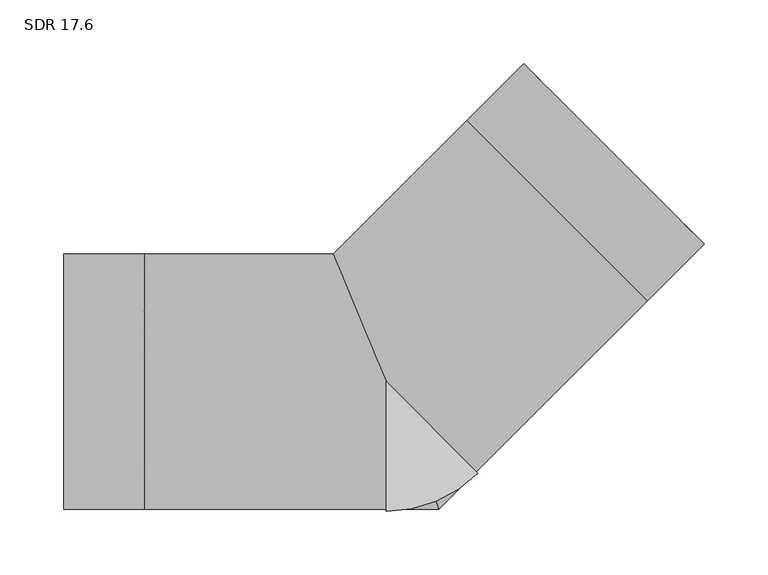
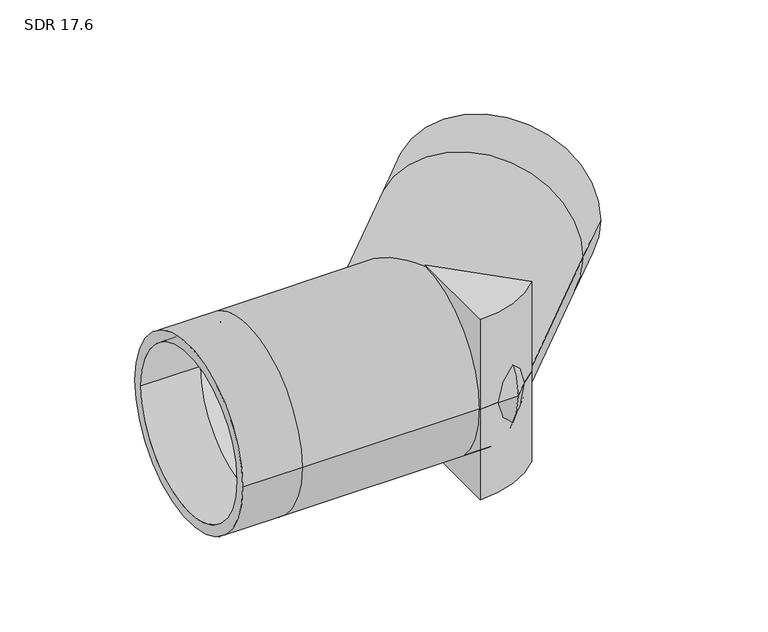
"""IFC4 building model written with IfcOpenShell, lengths in millimetres: pipe fitting geometry, Aquatherm - Elbow Blue BW Segmented : SDR 17.6."""

import ifcopenshell
import ifcopenshell.guid

model = None  # the IFC model being written
_history = None  # IfcOwnerHistory: only IFC2X3 demands one
_inside = {}  # id of a spatial element -> (the spatial element, [elements in it])
_under = {}  # id of a project, library or spatial element -> (it, [spatial elements below it])
_declared = {}  # id of a project -> (the project, [libraries it declares])
_typed = {}  # id of a type object -> (the type object, [elements of that type])
_made_of = {}  # id of a material, layer set ... -> (it, [elements and type objects made of it])


def new_model(schema):
    """Start an empty IFC model of exactly this schema.

    Asked for "IFC4X3", IfcOpenShell would pick the latest addendum, in which some entities
    have other attributes; the version numbers below select the first issue.
    IFC2X3 requires an IfcOwnerHistory on every rooted entity: one is made here for all.
    """
    global model, _history
    if schema == "IFC4X3":
        model = ifcopenshell.file(schema_version=(4, 3, 0, 0))
    else:
        model = ifcopenshell.file(schema=schema)
    _inside.clear()
    _under.clear()
    _declared.clear()
    _typed.clear()
    _made_of.clear()
    _history = None
    if model.schema == "IFC2X3":
        org = make("IfcOrganization", Name="unknown")
        user = make(
            "IfcPersonAndOrganization",
            ThePerson=make("IfcPerson", FamilyName="unknown"),
            TheOrganization=org,
        )
        app = make(
            "IfcApplication",
            ApplicationDeveloper=org,
            Version="unknown",
            ApplicationFullName="unknown",
            ApplicationIdentifier="unknown",
        )
        _history = make(
            "IfcOwnerHistory",
            OwningUser=user,
            OwningApplication=app,
            ChangeAction="ADDED",
            CreationDate=0,
        )
    return model


def make(cls, **values):
    """One entity of the class cls with the attributes given. An attribute that is None is left unset."""
    return model.create_entity(
        cls, **{name: value for name, value in values.items() if value is not None}
    )


def rooted(cls, **values):
    """An entity with a GlobalId (a new one), such as an element, a storey or a relation."""
    return make(cls, GlobalId=ifcopenshell.guid.new(), OwnerHistory=_history, **values)


def si_unit(unit_type, name, prefix=None):
    """IfcSIUnit, for example si_unit("LENGTHUNIT", "METRE", prefix="MILLI")."""
    return make("IfcSIUnit", UnitType=unit_type, Prefix=prefix, Name=name)


def assignment(units):
    """IfcUnitAssignment: the units of a project."""
    return None if units is None else make("IfcUnitAssignment", Units=units)


def point(xyz):
    """IfcCartesianPoint."""
    return None if xyz is None else make("IfcCartesianPoint", Coordinates=xyz)


def direction(xyz):
    """IfcDirection."""
    return None if xyz is None else make("IfcDirection", DirectionRatios=xyz)


def frame(location, z_axis=None, x_axis=None):
    """IfcAxis2Placement3D, a coordinate frame: its origin and axes. An axis left out is left unset."""
    return make(
        "IfcAxis2Placement3D",
        Location=point(location),
        Axis=direction(z_axis),
        RefDirection=direction(x_axis),
    )


def frame_2d(location, x_axis=None):
    """IfcAxis2Placement2D, a coordinate frame in the plane: its origin and x axis."""
    return make(
        "IfcAxis2Placement2D", Location=point(location), RefDirection=direction(x_axis)
    )


def origin():
    """The frame at (0, 0, 0) with its axes left unset."""
    return frame((0.0, 0.0, 0.0))


def origin_with_axes():
    """The frame at (0, 0, 0) with the z axis (0, 0, 1) and the x axis (1, 0, 0) written out."""
    return frame((0.0, 0.0, 0.0), z_axis=(0.0, 0.0, 1.0), x_axis=(1.0, 0.0, 0.0))


def origin_2d():
    """The frame at (0, 0) in the plane with its x axis left unset."""
    return frame_2d((0.0, 0.0))


def place(relative_to, where):
    """IfcLocalPlacement: puts the frame where relative to a parent placement (None: the world)."""
    return make(
        "IfcLocalPlacement", PlacementRelTo=relative_to, RelativePlacement=where
    )


def context(
    kind, dimensions, precision=None, world=None, true_north=None, identifier=None
):
    """IfcGeometricRepresentationContext, for example the 3D "Model" context."""
    return make(
        "IfcGeometricRepresentationContext",
        ContextIdentifier=identifier,
        ContextType=kind,
        CoordinateSpaceDimension=dimensions,
        Precision=precision,
        WorldCoordinateSystem=world,
        TrueNorth=true_north,
    )


def project(units=None, contexts=None):
    """IfcProject with its units and contexts."""
    return rooted(
        "IfcProject",
        Name="project",
        RepresentationContexts=contexts,
        UnitsInContext=assignment(units),
    )


def spatial(cls, under=None, at=None, **own):
    """A site, building, storey or space (cls), placed at a placement, below another one or the project."""
    s = rooted(cls, ObjectPlacement=at, **own)
    if under is not None:
        _under.setdefault(under.id(), (under, []))[1].append(s)
    return s


def polyline(points):
    """IfcPolyline through the points."""
    return make("IfcPolyline", Points=[point(p) for p in points])


def circle_curve(where, radius):
    """IfcCircle in the frame where."""
    return make("IfcCircle", Position=where, Radius=radius)


def ellipse_curve(where, semi_axis1, semi_axis2):
    """IfcEllipse in the frame where."""
    return make(
        "IfcEllipse", Position=where, SemiAxis1=semi_axis1, SemiAxis2=semi_axis2
    )


def trimmed(basis, trim1, trim2, sense, master):
    """IfcTrimmedCurve: the piece of a basis curve between two trims."""
    return make(
        "IfcTrimmedCurve",
        BasisCurve=basis,
        Trim1=trim1,
        Trim2=trim2,
        SenseAgreement=sense,
        MasterRepresentation=master,
    )


def segment(curve, same_sense, transition):
    """IfcCompositeCurveSegment."""
    return make(
        "IfcCompositeCurveSegment",
        Transition=transition,
        SameSense=same_sense,
        ParentCurve=curve,
    )


def composite_curve(segments, self_intersect=None):
    """IfcCompositeCurve: segments joined end to end."""
    return make("IfcCompositeCurve", Segments=segments, SelfIntersect=self_intersect)


def outline(outer, holes=None, kind="AREA"):
    """IfcArbitraryClosedProfileDef: a profile drawn as a closed curve; with holes, ...WithVoids."""
    if holes is None:
        return make("IfcArbitraryClosedProfileDef", ProfileType=kind, OuterCurve=outer)
    return make(
        "IfcArbitraryProfileDefWithVoids",
        ProfileType=kind,
        OuterCurve=outer,
        InnerCurves=holes,
    )


def extrude(swept, where, along, depth):
    """IfcExtrudedAreaSolid: the profile swept, set in the frame where, extruded along a direction by depth."""
    return make(
        "IfcExtrudedAreaSolid",
        SweptArea=swept,
        Position=where,
        ExtrudedDirection=direction(along),
        Depth=depth,
    )


def shape(context_of_items, identifier, shape_type, items):
    """IfcShapeRepresentation: the items that make up one representation, for example the "Body"."""
    return make(
        "IfcShapeRepresentation",
        ContextOfItems=context_of_items,
        RepresentationIdentifier=identifier,
        RepresentationType=shape_type,
        Items=items,
    )


def source(mapping_origin, context_of_items, identifier, shape_type, items):
    """IfcRepresentationMap: a shape defined once, which mapped items show again and again."""
    return make(
        "IfcRepresentationMap",
        MappingOrigin=mapping_origin,
        MappedRepresentation=shape(context_of_items, identifier, shape_type, items),
    )


def transform(
    local_origin,
    x_axis=None,
    y_axis=None,
    z_axis=None,
    scale=None,
    scale2=None,
    scale3=None,
    uniform=True,
):
    """IfcCartesianTransformationOperator3D, or its non-uniform kind. x_axis, y_axis, z_axis: its Axis1, 2, 3."""
    if uniform:
        return make(
            "IfcCartesianTransformationOperator3D",
            Axis1=direction(x_axis),
            Axis2=direction(y_axis),
            LocalOrigin=point(local_origin),
            Scale=scale,
            Axis3=direction(z_axis),
        )
    return make(
        "IfcCartesianTransformationOperator3DnonUniform",
        Axis1=direction(x_axis),
        Axis2=direction(y_axis),
        LocalOrigin=point(local_origin),
        Scale=scale,
        Axis3=direction(z_axis),
        Scale2=scale2,
        Scale3=scale3,
    )


def mapped(mapping_source, mapping_target):
    """IfcMappedItem: shows the shape of a source again, moved by a transform."""
    return make(
        "IfcMappedItem", MappingSource=mapping_source, MappingTarget=mapping_target
    )


def made_of(thing, what):
    """Note that an element or type object is made of a material, layer set ...; save() writes the relation."""
    if what is not None:
        _made_of.setdefault(what.id(), (what, []))[1].append(thing)
    return thing


def element(
    cls,
    number,
    at=None,
    inside=None,
    cuts=None,
    type_object=None,
    material=None,
    context=None,
    identifier="Body",
    shape_type=None,
    held_by="IfcProductDefinitionShape",
    body=None,
    shapes=None,
    **own,
):
    """One element of the class cls, such as IfcWall. Its Tag is "e" and its number.

    at: its placement. inside: the storey or other place that contains it. cuts: it is an
    opening in that element (IfcRelVoidsElement). A single representation is given by context,
    identifier, shape_type and body (its items); several are given by shapes. held_by: the class
    of the entity that holds the representations. save() writes the other relations.
    """
    e = rooted(cls, Tag="e%d" % number, ObjectPlacement=at, **own)
    if body is not None:
        shapes = [shape(context, identifier, shape_type, body)]
    if shapes is not None:
        e.Representation = make(held_by, Representations=shapes)
    if inside is not None:
        _inside.setdefault(inside.id(), (inside, []))[1].append(e)
    if cuts is not None:
        rooted(
            "IfcRelVoidsElement", RelatingBuildingElement=cuts, RelatedOpeningElement=e
        )
    if type_object is not None:
        _typed.setdefault(type_object.id(), (type_object, []))[1].append(e)
    return made_of(e, material)


def aggregate(whole, parts):
    """IfcRelAggregates: a whole, such as a stair, and the parts it consists of."""
    return rooted("IfcRelAggregates", RelatingObject=whole, RelatedObjects=parts)


def save(model, path):
    """Write the relations noted so far, then the file.

    IfcRelAggregates (storeys below a building ...), IfcRelContainedInSpatialStructure (elements
    in a storey), IfcRelDefinesByType, IfcRelAssociatesMaterial and IfcRelDeclares: one each for
    every whole, place, type object, material and project.
    """
    for whole, parts in _under.values():
        aggregate(whole, parts)
    for where, things in _inside.values():
        rooted(
            "IfcRelContainedInSpatialStructure",
            RelatedElements=things,
            RelatingStructure=where,
        )
    for kind, things in _typed.values():
        rooted("IfcRelDefinesByType", RelatedObjects=things, RelatingType=kind)
    for what, things in _made_of.values():
        rooted("IfcRelAssociatesMaterial", RelatedObjects=things, RelatingMaterial=what)
    for by, libraries in _declared.values():
        rooted("IfcRelDeclares", RelatingContext=by, RelatedDefinitions=libraries)
    model.write(path)


def plane_surface(at):
    """IfcPlane: the flat surface through the origin of the frame at, square to its z axis."""
    return make("IfcPlane", Position=at)


def cylinder_surface(at, radius):
    """IfcCylindricalSurface: all points at the distance radius from the z axis of the frame at."""
    return make("IfcCylindricalSurface", Position=at, Radius=radius)


def revolved_surface(curve, axis_point, axis_direction):
    """IfcSurfaceOfRevolution: the curve turned about the line through axis_point along axis_direction."""
    return make(
        "IfcSurfaceOfRevolution",
        SweptCurve=make("IfcArbitraryOpenProfileDef", ProfileType="CURVE", Curve=curve),
        AxisPosition=make("IfcAxis1Placement", Location=point(axis_point), Axis=direction(axis_direction)),
    )


def advanced_brep(points, edges, surfaces, faces):
    """IfcAdvancedBrep: a solid bounded by faces that lie on surfaces and meet in shared edges.

    An edge is (start, end): straight between two places in points (the first is 0);
    or (start, end, curve); or (start, end, curve, False) where it runs against its curve.
    A face is (place in surfaces, loops), or (place, loops, False) where it looks against
    its surface's normal. A loop lists edges by number (the first is 1), with a minus sign
    where the edge is run from its end to its start. The first loop is the outer one.
    """
    corners = [point(p) for p in points]
    vertices = [make("IfcVertexPoint", VertexGeometry=c) for c in corners]
    made = []
    for start, end, *more in edges:
        made.append(
            make(
                "IfcEdgeCurve",
                EdgeStart=vertices[start],
                EdgeEnd=vertices[end],
                EdgeGeometry=more[0] if more else make("IfcPolyline", Points=[corners[start], corners[end]]),
                SameSense=more[1] if len(more) > 1 else True,
            )
        )
    hull = []
    for where, loops, *sense in faces:
        bounds = []
        for j, loop in enumerate(loops):
            ring = [make("IfcOrientedEdge", EdgeElement=made[abs(k) - 1], Orientation=k > 0) for k in loop]
            bounds.append(
                make(
                    "IfcFaceOuterBound" if j == 0 else "IfcFaceBound",
                    Bound=make("IfcEdgeLoop", EdgeList=ring),
                    Orientation=True,
                )
            )
        hull.append(make("IfcAdvancedFace", Bounds=bounds, FaceSurface=surfaces[where], SameSense=sense[0] if sense else True))
    return make("IfcAdvancedBrep", Outer=make("IfcClosedShell", CfsFaces=hull))


def sdr_17_6_919a281c(model_context):
    return source(origin(), model_context, "Body", "SolidModel", [
        extrude(outline(composite_curve([segment(polyline([(0.0, -101.6), (0.0, 0.0), (71.842049, -71.842049)]), True, "CONTINUOUS"), segment(trimmed(circle_curve(origin_2d(), 101.6), [point((71.842049, -71.842049))], [point((0.0, -101.6))], False, "CARTESIAN"), True, "CONTINUOUS")], self_intersect=False)), frame((0.0, 0.0, -101.6), z_axis=(0.0, 0.0, 1.0), x_axis=(1.0, 0.0, 0.0)), (0.0, 0.0, 1.0), 101.6),
        extrude(outline(composite_curve([segment(trimmed(circle_curve(origin_2d(), 101.6), [point((71.842049, -71.842049))], [point((0.0, -101.6))], False, "CARTESIAN"), True, "CONTINUOUS"), segment(polyline([(0.0, -101.6), (0.0, 0.0), (71.842049, -71.842049)]), True, "CONTINUOUS")], self_intersect=False)), origin_with_axes(), (0.0, 0.0, 1.0), 101.6),
        advanced_brep(
        [(-252.476, -99.949, 0.0), (-252.476, 99.949, 0.0), (-252.476, -88.5921673, 0.0), (-252.476, 88.5921673, 0.0), (249.2021074, 107.852876, 0.0), (107.852876, 249.2021074, 0.0), (241.171614, 115.8833694, 0.0), (115.8833694, 241.171614, 0.0), (-189.357, -99.949, 0.0), (-189.357, 99.949, 0.0), (-189.357, -88.5921673, 0.0), (-189.357, 88.5921673, 0.0), (41.4002313, -99.949, 0.0), (-41.4002313, 99.949, 0.0), (36.6960772, -88.5921673, 0.0), (-36.6960772, 88.5921673, 0.0), (204.5702344, 63.2210031, 0.0), (63.2210031, 204.5702344, 0.0), (196.539741, 71.2514965, 0.0), (71.2514965, 196.539741, 0.0)],
        [
            (0, 1, circle_curve(frame((-252.476, 0.0, 0.0), z_axis=(-1.0, 0.0, 0.0), x_axis=(0.0, 1.0, 0.0)), 99.949)),
            (1, 0, circle_curve(frame((-252.476, 0.0, 0.0), z_axis=(-1.0, 0.0, 0.0), x_axis=(0.0, 1.0, 0.0)), 99.949)),
            (2, 3, circle_curve(frame((-252.476, 0.0, 0.0), z_axis=(1.0, 0.0, 0.0), x_axis=(0.0, 1.0, 0.0)), 88.5921673)),
            (3, 2, circle_curve(frame((-252.476, 0.0, 0.0), z_axis=(1.0, 0.0, 0.0), x_axis=(0.0, 1.0, 0.0)), 88.5921673)),
            (4, 5, circle_curve(frame((178.5274917, 178.5274917, 0.0), z_axis=(0.7071067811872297, 0.7071067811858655, 0.0), x_axis=(-0.7071067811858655, 0.7071067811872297, 0.0)), 99.949)),
            (5, 4, circle_curve(frame((178.5274917, 178.5274917, 0.0), z_axis=(0.7071067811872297, 0.7071067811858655, 0.0), x_axis=(-0.7071067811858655, 0.7071067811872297, 0.0)), 99.949)),
            (6, 7, circle_curve(frame((178.5274917, 178.5274917, 0.0), z_axis=(-0.7071067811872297, -0.7071067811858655, 0.0), x_axis=(-0.7071067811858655, 0.7071067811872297, 0.0)), 88.5921673)),
            (7, 6, circle_curve(frame((178.5274917, 178.5274917, 0.0), z_axis=(-0.7071067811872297, -0.7071067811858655, 0.0), x_axis=(-0.7071067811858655, 0.7071067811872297, 0.0)), 88.5921673)),
            (0, 8),
            (8, 9, circle_curve(frame((-189.357, 0.0, 0.0), z_axis=(-1.0, 0.0, 0.0), x_axis=(0.0, 1.0, 0.0)), 99.949)),
            (9, 1),
            (9, 8, circle_curve(frame((-189.357, 0.0, 0.0), z_axis=(-1.0, 0.0, 0.0), x_axis=(0.0, 1.0, 0.0)), 99.949)),
            (2, 10),
            (10, 11, circle_curve(frame((-189.357, 0.0, 0.0), z_axis=(1.0, 0.0, 0.0), x_axis=(0.0, 1.0, 0.0)), 88.5921673)),
            (11, 3),
            (11, 10, circle_curve(frame((-189.357, 0.0, 0.0), z_axis=(1.0, 0.0, 0.0), x_axis=(0.0, 1.0, 0.0)), 88.5921673)),
            (8, 12),
            (12, 13, ellipse_curve(frame((0.0, 0.0, 0.0), z_axis=(-0.9238795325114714, -0.3826834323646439, 0.0), x_axis=(-0.38268343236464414, 0.9238795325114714, 0.0)), 108.184018, 99.949)),
            (13, 9),
            (13, 12, ellipse_curve(frame((0.0, 0.0, 0.0), z_axis=(-0.9238795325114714, -0.3826834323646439, 0.0), x_axis=(-0.38268343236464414, 0.9238795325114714, 0.0)), 108.184018, 99.949)),
            (10, 14),
            (14, 15, ellipse_curve(frame((0.0, 0.0, 0.0), z_axis=(0.9238795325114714, 0.3826834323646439, 0.0), x_axis=(0.38268343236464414, -0.9238795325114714, 0.0)), 95.8914709, 88.5921673)),
            (15, 11),
            (15, 14, ellipse_curve(frame((0.0, 0.0, 0.0), z_axis=(0.9238795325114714, 0.3826834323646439, 0.0), x_axis=(0.38268343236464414, -0.9238795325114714, 0.0)), 95.8914709, 88.5921673)),
            (12, 16),
            (16, 17, circle_curve(frame((133.8956188, 133.8956188, 0.0), z_axis=(-0.7071067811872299, -0.7071067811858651, 0.0), x_axis=(-0.7071067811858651, 0.7071067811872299, 0.0)), 99.949)),
            (17, 13),
            (17, 16, circle_curve(frame((133.8956188, 133.8956188, 0.0), z_axis=(-0.7071067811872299, -0.7071067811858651, 0.0), x_axis=(-0.7071067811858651, 0.7071067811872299, 0.0)), 99.949)),
            (14, 18),
            (18, 19, circle_curve(frame((133.8956188, 133.8956188, 0.0), z_axis=(0.7071067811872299, 0.7071067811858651, 0.0), x_axis=(-0.7071067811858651, 0.7071067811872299, 0.0)), 88.5921673)),
            (19, 15),
            (19, 18, circle_curve(frame((133.8956188, 133.8956188, 0.0), z_axis=(0.7071067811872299, 0.7071067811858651, 0.0), x_axis=(-0.7071067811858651, 0.7071067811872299, 0.0)), 88.5921673)),
            (16, 4),
            (5, 17),
            (18, 6),
            (7, 19),
        ],
        [
            plane_surface(frame((-252.476, 0.0, 0.0), z_axis=(-1.0, 0.0, 0.0), x_axis=(0.0, 0.0, 1.0))),
            plane_surface(frame((178.5274917, 178.5274917, 0.0), z_axis=(0.7071067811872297, 0.7071067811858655, 0.0), x_axis=(0.0, 0.0, 1.0))),
            cylinder_surface(frame((-252.476, 0.0, 0.0), z_axis=(-1.0, 0.0, 0.0), x_axis=(0.0, 1.0, 0.0)), 99.949),
            revolved_surface(polyline([(-189.357, 88.5921673, 0.0), (-252.476, 88.5921673, 0.0)]), (-252.476, 0.0, 0.0), (1.0, 0.0, 0.0)),
            cylinder_surface(frame((-189.357, 0.0, 0.0), z_axis=(-1.0, 0.0, 0.0), x_axis=(0.0, 1.0, 0.0)), 99.949),
            revolved_surface(polyline([(36.69607721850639, 88.5921673, 0.0), (-189.357, 88.5921673, 0.0)]), (-189.357, 0.0, 0.0), (1.0, 0.0, 0.0)),
            cylinder_surface(frame((0.0, 0.0, 0.0), z_axis=(-0.7071067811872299, -0.7071067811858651, 0.0), x_axis=(-0.7071067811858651, 0.7071067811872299, 0.0)), 99.949),
            revolved_surface(polyline([(71.25149654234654, 196.53974105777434, 0.0), (-88.59216730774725, 36.69607720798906, 0.0)]), (0.0, 0.0, 0.0), (0.7071067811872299, 0.7071067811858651, 0.0)),
            cylinder_surface(frame((133.8956188, 133.8956188, 0.0), z_axis=(-0.7071067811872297, -0.7071067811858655, 0.0), x_axis=(-0.7071067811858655, 0.7071067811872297, 0.0)), 99.949),
            revolved_surface(polyline([(115.88336944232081, 241.17161395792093, 0.0), (71.25149649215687, 196.5397410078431, 0.0)]), (133.8956188, 133.8956188, 0.0), (0.7071067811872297, 0.7071067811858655, 0.0)),
        ],
        [
            (0, [[1, 2], [3, 4]]),
            (1, [[5, 6], [7, 8]]),
            (2, [[-1, 9, 10, 11]]),
            (2, [[-2, -11, 12, -9]]),
            (3, [[-3, 13, 14, 15]]),
            (3, [[-4, -15, 16, -13]]),
            (4, [[-10, 17, 18, 19]]),
            (4, [[-12, -19, 20, -17]]),
            (5, [[-14, 21, 22, 23]]),
            (5, [[-16, -23, 24, -21]]),
            (6, [[-18, 25, 26, 27]]),
            (6, [[-20, -27, 28, -25]]),
            (7, [[-22, 29, 30, 31]]),
            (7, [[-24, -31, 32, -29]]),
            (8, [[-26, 33, -6, 34]]),
            (8, [[-28, -34, -5, -33]]),
            (9, [[-30, 35, -8, 36]]),
            (9, [[-32, -36, -7, -35]]),
        ],
    ),
    ])


if __name__ == "__main__":
    model = new_model("IFC4")
    model_context = context("Model", 3, world=origin())
    ifc_project = project(units=[si_unit("LENGTHUNIT", "METRE", prefix="MILLI")], contexts=[model_context])
    site = spatial("IfcSite", under=ifc_project)
    building = spatial("IfcBuilding", under=site)
    placement = place(None, origin())
    sdr_17_6_shape = sdr_17_6_919a281c(model_context)
    element("IfcPipeFitting", 1, ObjectType="Aquatherm - Elbow Blue BW Segmented : SDR 17.6", at=placement, inside=building, context=model_context, shape_type="MappedRepresentation", body=[
        mapped(sdr_17_6_shape, transform((0.0, 0.0, 0.0), x_axis=(1.0, 0.0, 0.0), y_axis=(0.0, 1.0, 0.0), z_axis=(0.0, 0.0, 1.0))),
    ])
    save(model, "model.ifc")
